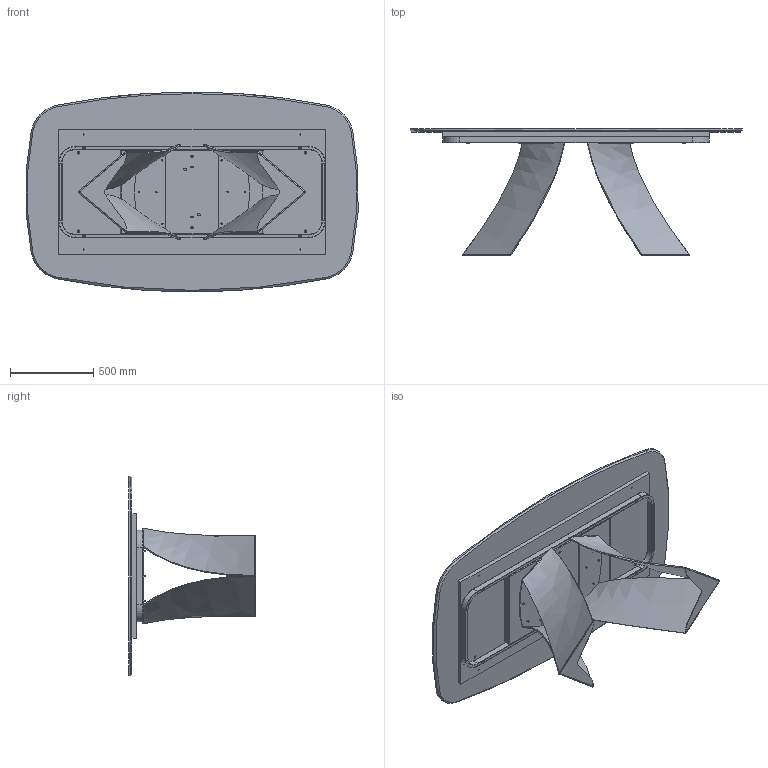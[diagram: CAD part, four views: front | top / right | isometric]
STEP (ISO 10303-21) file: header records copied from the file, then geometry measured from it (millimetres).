
FILE_DESCRIPTION (( 'STEP AP203' ), '1' );
FILE_NAME ('TW41M.STEP', '2024-08-07T12:39:24', ( '' ), ( '' ), 'SwSTEP 2.0', 'SolidWorks 2022', '' );
FILE_SCHEMA (( 'CONFIG_CONTROL_DESIGN' ));
Length unit declared in the file: millimetre
Products named in the file (11): M4XMXX-00-Piani Sagomati in marmo_2000x1200; TTAV01_02-01-VASSOIO IRRIGIDIMENTO TELAIO UNIVERSALE; TWS000000BAS-00-TWIST BASE GREZZA; rondella M8_8X16; M8xXXmm_M8x20mm; M8xXXmm_M8x55mm; M4X-00-Piani Sagomati in marmo_2000 x 1200; TUBOLARE TELAIO TEMP TWIST_Default<A macchina>; TW41M; TRUXXXXXX-00-NOBILITATO GR CON SUPP TRUCIOLARE SP. 25_TRU00004_1600x720; TEALIO TEMP PER MANUALE
Assembly tree (40 placements, depth 3):
  TW41M
    M4XMXX-00-Piani Sagomati in marmo_2000x1200
      M4X-00-Piani Sagomati in marmo_2000 x 1200
      TRUXXXXXX-00-NOBILITATO GR CON SUPP TRUCIOLARE SP. 25_TRU00004_1600x720
    TEALIO TEMP PER MANUALE
      TUBOLARE TELAIO TEMP TWIST_Default<A macchina>
      TTAV01_02-01-VASSOIO IRRIGIDIMENTO TELAIO UNIVERSALE
    TWS000000BAS-00-TWIST BASE GREZZA  x2
    M8xXXmm_M8x55mm  x4
    rondella M8_8X16  x16
    M8xXXmm_M8x20mm  x12
Bounding box: 1992.14 x 760.37 x 1200 mm (x, y, z)
Volume: 83830754.1 mm3; surface area: 11381735.5 mm2
Topology: 53 solids, 53 shells, 1316 faces, 3086 edges, 1845 vertices
Faces by surface type: plane 470, cylinder 333, torus 224, cone 223, bspline 66
Entity records: 25844 total; most frequent: CARTESIAN_POINT 9497, DIRECTION 3088, ORIENTED_EDGE 2914, EDGE_CURVE 1457, AXIS2_PLACEMENT_3D 1164, VERTEX_POINT 934, LINE 760, VECTOR 760
